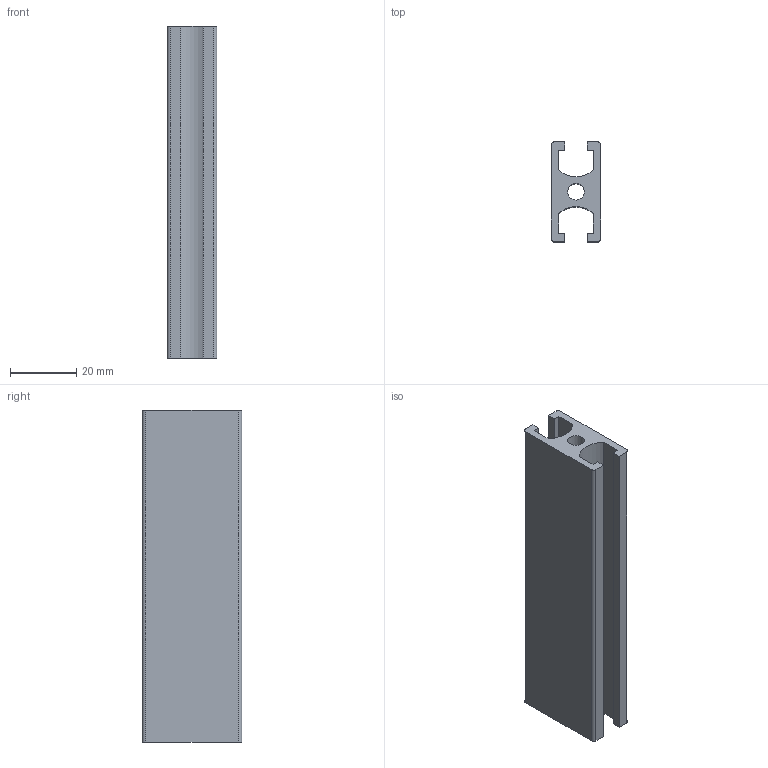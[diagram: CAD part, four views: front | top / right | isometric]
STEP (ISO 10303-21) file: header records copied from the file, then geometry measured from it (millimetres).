
FILE_DESCRIPTION(/* description */ (''),/* implementation_level */ '2;1');
FILE_NAME(/* name */ 'C:\Users\Owner\Documents\硯聰\Inv材料庫-3D新型錄\AM-(鋁擠)\6系列\AM6-1530_100L.stp',/* time_stamp */ '2019-02-21T14:28:45+08:00',/* author */ ('Owner'),/* organization */ (''),/* preprocessor_version */ 'ST-DEVELOPER v16.1',/* originating_system */ 'Autodesk Inventor 2016',/* authorisation */ '');
FILE_SCHEMA (('AUTOMOTIVE_DESIGN { 1 0 10303 214 3 1 1 }'));
Length unit declared in the file: millimetre
Products named in the file (1): AM6-1530_100L
Bounding box: 15 x 30 x 100 mm (x, y, z)
Volume: 24203.6 mm3; surface area: 15971.8 mm2
Topology: 1 solids, 1 shells, 27 faces, 75 edges, 50 vertices
Faces by surface type: plane 20, cylinder 7
Full cylindrical faces by diameter (mm): 5 x1
Entity records: 886 total; most frequent: CARTESIAN_POINT 152, ORIENTED_EDGE 148, DIRECTION 144, EDGE_CURVE 74, LINE 60, VECTOR 60, VERTEX_POINT 50, AXIS2_PLACEMENT_3D 42
